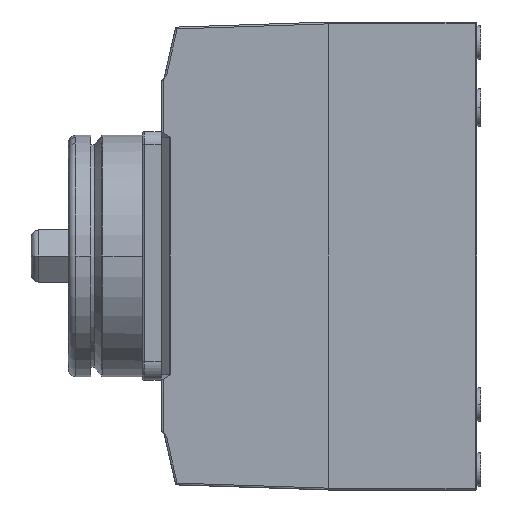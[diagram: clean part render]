
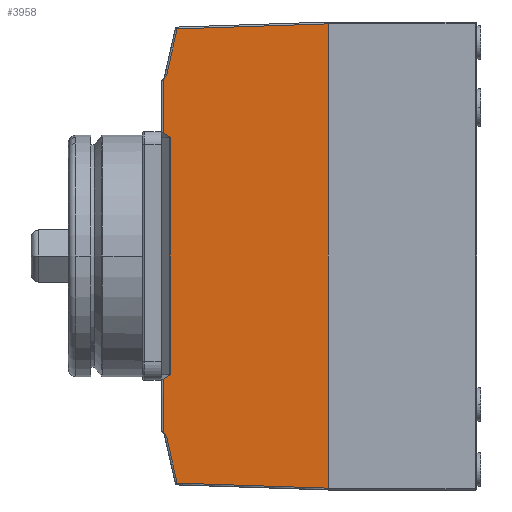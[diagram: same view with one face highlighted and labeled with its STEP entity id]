
A CAD part, left-side view. The second image highlights one B-rep face of the part: STEP entity #3958.
In plain terms, the highlighted planar face has unit normal (-0.999, 0.033, 0).
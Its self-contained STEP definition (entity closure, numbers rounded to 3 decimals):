
#1005=DIRECTION('',(0.007,0.222,-0.975));
#1006=VECTOR('',#1005,12.769);
#1007=CARTESIAN_POINT('',(-49.142,80.728,61.143));
#1008=LINE('',#1007,#1006);
#1009=DIRECTION('',(-0.033,-0.999,0.033));
#1010=VECTOR('',#1009,40.773);
#1011=CARTESIAN_POINT('',(-49.142,80.728,61.143));
#1012=LINE('',#1011,#1010);
#1013=DIRECTION('',(0.033,0.999,0.033));
#1014=VECTOR('',#1013,40.773);
#1015=CARTESIAN_POINT('',(-50.5,40.,-62.5));
#1016=LINE('',#1015,#1014);
#1017=DIRECTION('',(-0.007,-0.222,-0.975));
#1018=VECTOR('',#1017,12.769);
#1019=CARTESIAN_POINT('',(-49.048,83.568,
-48.693));
#1020=LINE('',#1019,#1018);
#1021=DIRECTION('',(0.,0.,1.));
#1022=VECTOR('',#1021,14.389);
#1023=CARTESIAN_POINT('',(-49.016,84.517,
-47.571));
#1024=LINE('',#1023,#1022);
#1025=DIRECTION('',(0.,0.,1.));
#1026=VECTOR('',#1025,63.74);
#1027=CARTESIAN_POINT('',(-49.083,82.522,
-31.87));
#1028=LINE('',#1027,#1026);
#1029=DIRECTION('',(0.,0.,1.));
#1030=VECTOR('',#1029,14.389);
#1031=CARTESIAN_POINT('',(-49.016,84.517,33.182));
#1032=LINE('',#1031,#1030);
#1117=DIRECTION('',(0.022,0.646,-0.763));
#1118=VECTOR('',#1117,1.47);
#1119=CARTESIAN_POINT('',(-49.048,83.568,48.693));
#1120=LINE('',#1119,#1118);
#1129=CARTESIAN_POINT('',(-49.016,84.517,47.571));
#1163=DIRECTION('',(-0.028,-0.835,-0.549));
#1164=VECTOR('',#1163,2.389);
#1165=CARTESIAN_POINT('',(-49.016,84.517,33.182));
#1166=LINE('',#1165,#1164);
#1195=DIRECTION('',(0.028,0.835,-0.549));
#1196=VECTOR('',#1195,2.389);
#1197=CARTESIAN_POINT('',(-49.083,82.522,
-31.87));
#1198=LINE('',#1197,#1196);
#1253=DIRECTION('',(-0.022,-0.646,-0.763));
#1254=VECTOR('',#1253,1.47);
#1255=CARTESIAN_POINT('',(-49.016,84.517,
-47.571));
#1256=LINE('',#1255,#1254);
#1548=DIRECTION('',(0.,0.,1.));
#1549=VECTOR('',#1548,125.);
#1550=CARTESIAN_POINT('',(-50.5,40.,-62.5));
#1551=LINE('',#1550,#1549);
#2273=CARTESIAN_POINT('',(-49.142,80.728,61.143));
#2274=CARTESIAN_POINT('',(-49.048,83.568,48.693));
#2275=VERTEX_POINT('',#2273);
#2276=VERTEX_POINT('',#2274);
#2295=CARTESIAN_POINT('',(-50.5,40.,62.5));
#2296=VERTEX_POINT('',#2295);
#2301=CARTESIAN_POINT('',(-50.5,40.,-62.5));
#2302=VERTEX_POINT('',#2301);
#2305=CARTESIAN_POINT('',(-49.142,80.728,
-61.143));
#2306=VERTEX_POINT('',#2305);
#2309=CARTESIAN_POINT('',(-49.048,83.568,
-48.693));
#2310=VERTEX_POINT('',#2309);
#2334=VERTEX_POINT('',#1129);
#2335=CARTESIAN_POINT('',(-49.016,84.517,33.182));
#2336=VERTEX_POINT('',#2335);
#2339=CARTESIAN_POINT('',(-49.016,84.517,
-47.571));
#2340=CARTESIAN_POINT('',(-49.016,84.517,
-33.182));
#2341=VERTEX_POINT('',#2339);
#2342=VERTEX_POINT('',#2340);
#2359=CARTESIAN_POINT('',(-49.083,82.522,
-31.87));
#2360=CARTESIAN_POINT('',(-49.083,82.522,31.87));
#2361=VERTEX_POINT('',#2359);
#2362=VERTEX_POINT('',#2360);
#3928=CARTESIAN_POINT('',(-49.,85.,-63.));
#3929=DIRECTION('',(0.999,-0.033,0.));
#3930=DIRECTION('',(-0.033,-0.999,0.));
#3931=AXIS2_PLACEMENT_3D('',#3928,#3929,#3930);
#3932=PLANE('',#3931);
#3934=ORIENTED_EDGE('',*,*,#3933,.F.);
#3936=ORIENTED_EDGE('',*,*,#3935,.T.);
#3938=ORIENTED_EDGE('',*,*,#3937,.F.);
#3939=ORIENTED_EDGE('',*,*,#3918,.T.);
#3941=ORIENTED_EDGE('',*,*,#3940,.F.);
#3943=ORIENTED_EDGE('',*,*,#3942,.F.);
#3945=ORIENTED_EDGE('',*,*,#3944,.T.);
#3947=ORIENTED_EDGE('',*,*,#3946,.F.);
#3949=ORIENTED_EDGE('',*,*,#3948,.T.);
#3951=ORIENTED_EDGE('',*,*,#3950,.F.);
#3953=ORIENTED_EDGE('',*,*,#3952,.T.);
#3955=ORIENTED_EDGE('',*,*,#3954,.F.);
#3956=EDGE_LOOP('',(#3934,#3936,#3938,#3939,#3941,#3943,#3945,#3947,#3949,#3951,
#3953,#3955));
#3957=FACE_OUTER_BOUND('',#3956,.F.);
#3958=ADVANCED_FACE('',(#3957),#3932,.F.);
#3918=EDGE_CURVE('',#2302,#2306,#1016,.T.);
#3933=EDGE_CURVE('',#2275,#2276,#1008,.T.);
#3935=EDGE_CURVE('',#2275,#2296,#1012,.T.);
#3937=EDGE_CURVE('',#2302,#2296,#1551,.T.);
#3940=EDGE_CURVE('',#2310,#2306,#1020,.T.);
#3942=EDGE_CURVE('',#2341,#2310,#1256,.T.);
#3944=EDGE_CURVE('',#2341,#2342,#1024,.T.);
#3946=EDGE_CURVE('',#2361,#2342,#1198,.T.);
#3948=EDGE_CURVE('',#2361,#2362,#1028,.T.);
#3950=EDGE_CURVE('',#2336,#2362,#1166,.T.);
#3952=EDGE_CURVE('',#2336,#2334,#1032,.T.);
#3954=EDGE_CURVE('',#2276,#2334,#1120,.T.);
